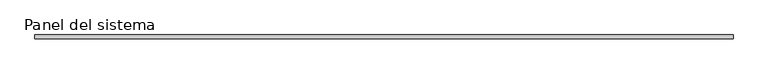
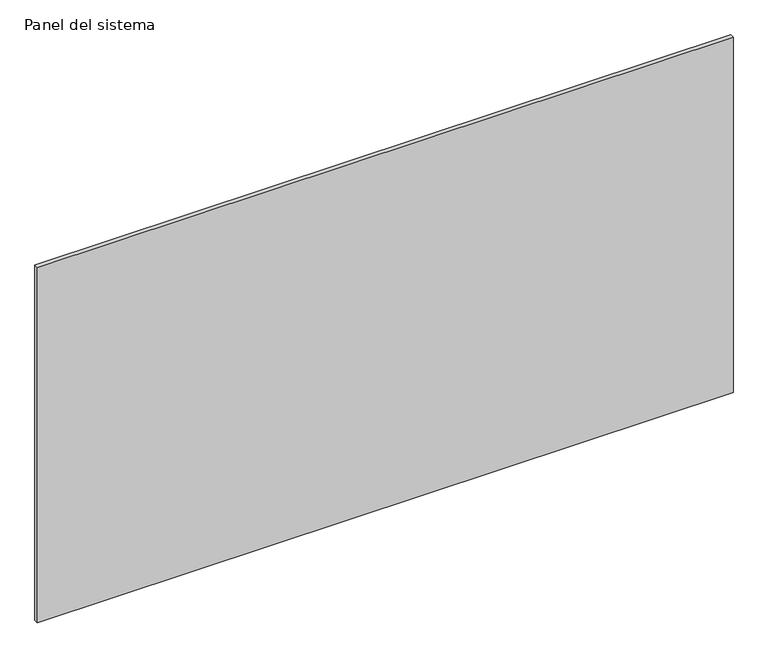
"""IFC4 building model written with IfcOpenShell, lengths in millimetres: plate geometry, Panel del sistema : Barnadal cristal."""

from ifc_helpers import new_model, si_unit, origin, origin_with_axes, place, context, project, spatial, polyline, outline, extrude, source, transform, mapped, element, save


def panel_del_sistema_d6f74f74(model_context):
    return source(origin(), model_context, "Body", "SweptSolid", [
        extrude(outline(polyline([(879.5373628, -5.0), (-879.5373628, -5.0), (-879.5373628, 5.0), (879.5373628, 5.0), (879.5373628, -5.0)])), origin_with_axes(), (0.0, 0.0, 1.0), 950.0),
    ])


if __name__ == "__main__":
    model = new_model("IFC4")
    model_context = context("Model", 3, world=origin())
    ifc_project = project(units=[si_unit("LENGTHUNIT", "METRE", prefix="MILLI")], contexts=[model_context])
    site = spatial("IfcSite", under=ifc_project)
    building = spatial("IfcBuilding", under=site)
    placement = place(None, origin())
    panel_del_sistema_shape = panel_del_sistema_d6f74f74(model_context)
    element("IfcPlate", 1, ObjectType="Panel del sistema : Barnadal cristal", at=placement, inside=building, context=model_context, shape_type="MappedRepresentation", body=[
        mapped(panel_del_sistema_shape, transform((0.0, 0.0, 0.0), x_axis=(1.0, 0.0, 0.0), y_axis=(0.0, 1.0, 0.0), z_axis=(0.0, 0.0, 1.0))),
    ])
    save(model, "model.ifc")
